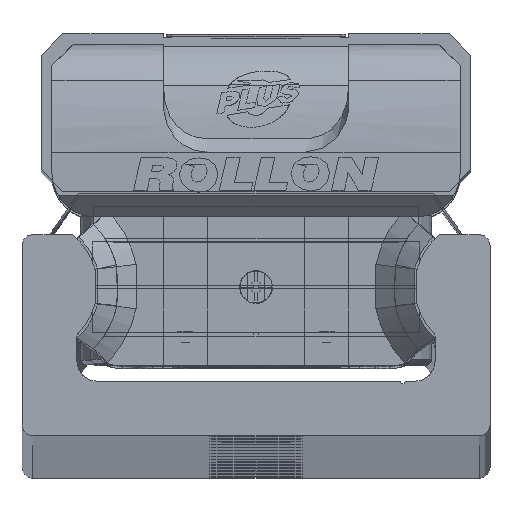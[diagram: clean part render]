
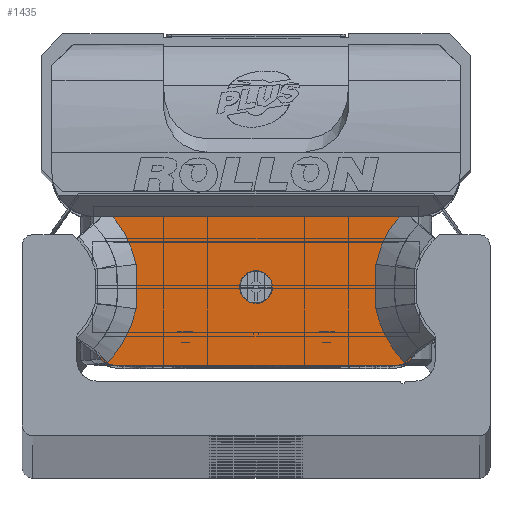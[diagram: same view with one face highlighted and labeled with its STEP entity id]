
A CAD part, top view. The second image highlights one B-rep face of the part: STEP entity #1435.
In plain terms, the highlighted planar face has unit normal (0, 0, 1) as drawn and (0, 0, -1) by its records, which use the part's own axes.
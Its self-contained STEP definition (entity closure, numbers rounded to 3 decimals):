
#1435 = ADVANCED_FACE( '', ( #3273, #3274 ), #3275, .F. );
#3273 = FACE_BOUND( '', #5703, .T. );
#3274 = FACE_OUTER_BOUND( '', #5704, .T. );
#3275 = PLANE( '', #5705 );
#5703 = EDGE_LOOP( '', ( #9621 ) );
#5704 = EDGE_LOOP( '', ( #9622, #9623, #9624, #9625, #9626, #9627, #9628, #9629, #9630, #9631, #9632, #9633 ) );
#5705 = AXIS2_PLACEMENT_3D( '', #9634, #9635, #9636 );
#9621 = ORIENTED_EDGE( '', *, *, #14032, .T. );
#9622 = ORIENTED_EDGE( '', *, *, #14141, .T. );
#9623 = ORIENTED_EDGE( '', *, *, #14436, .F. );
#9624 = ORIENTED_EDGE( '', *, *, #14437, .T. );
#9625 = ORIENTED_EDGE( '', *, *, #14438, .F. );
#9626 = ORIENTED_EDGE( '', *, *, #14439, .T. );
#9627 = ORIENTED_EDGE( '', *, *, #14440, .T. );
#9628 = ORIENTED_EDGE( '', *, *, #13671, .T. );
#9629 = ORIENTED_EDGE( '', *, *, #14022, .T. );
#9630 = ORIENTED_EDGE( '', *, *, #14325, .T. );
#9631 = ORIENTED_EDGE( '', *, *, #14441, .T. );
#9632 = ORIENTED_EDGE( '', *, *, #14442, .T. );
#9633 = ORIENTED_EDGE( '', *, *, #13666, .T. );
#9634 = CARTESIAN_POINT( '', ( 14.9, 7.35, -13.25 ) );
#9635 = DIRECTION( '', ( 0., 0., 1. ) );
#9636 = DIRECTION( '', ( 1., 0., 0. ) );
#13666 = EDGE_CURVE( '', #16398, #16396, #16399, .T. );
#13671 = EDGE_CURVE( '', #16407, #16405, #16408, .T. );
#14022 = EDGE_CURVE( '', #16405, #16962, #16964, .T. );
#14032 = EDGE_CURVE( '', #16977, #16977, #16978, .T. );
#14141 = EDGE_CURVE( '', #16396, #15873, #17150, .T. );
#14325 = EDGE_CURVE( '', #16962, #17436, #17438, .T. );
#14436 = EDGE_CURVE( '', #17600, #15873, #17601, .T. );
#14437 = EDGE_CURVE( '', #17600, #17602, #17603, .T. );
#14438 = EDGE_CURVE( '', #15423, #17602, #17604, .T. );
#14439 = EDGE_CURVE( '', #15423, #17605, #17606, .T. );
#14440 = EDGE_CURVE( '', #17605, #16407, #17607, .T. );
#14441 = EDGE_CURVE( '', #17436, #17608, #17609, .T. );
#14442 = EDGE_CURVE( '', #17608, #16398, #17610, .T. );
#15423 = VERTEX_POINT( '', #18872 );
#15873 = VERTEX_POINT( '', #19455 );
#16396 = VERTEX_POINT( '', #20186 );
#16398 = VERTEX_POINT( '', #20189 );
#16399 = B_SPLINE_CURVE_WITH_KNOTS( '', 2, ( #20190, #20191, #20192, #20193, #20194 ), .UNSPECIFIED., .F., .F., ( 3, 2, 3 ), ( 0., 0.5, 1. ), .UNSPECIFIED. );
#16405 = VERTEX_POINT( '', #20204 );
#16407 = VERTEX_POINT( '', #20207 );
#16408 = B_SPLINE_CURVE_WITH_KNOTS( '', 2, ( #20208, #20209, #20210 ), .UNSPECIFIED., .F., .F., ( 3, 3 ), ( 0., 1. ), .UNSPECIFIED. );
#16962 = VERTEX_POINT( '', #20931 );
#16964 = B_SPLINE_CURVE_WITH_KNOTS( '', 2, ( #20936, #20937, #20938, #20939, #20940 ), .UNSPECIFIED., .F., .F., ( 3, 2, 3 ), ( 0., 0.5, 0.868 ), .UNSPECIFIED. );
#16977 = VERTEX_POINT( '', #20960 );
#16978 = CIRCLE( '', #20961, 1.5 );
#17150 = B_SPLINE_CURVE_WITH_KNOTS( '', 1, ( #21234, #21235 ), .UNSPECIFIED., .F., .F., ( 2, 2 ), ( 0., 1. ), .UNSPECIFIED. );
#17436 = VERTEX_POINT( '', #21625 );
#17438 = LINE( '', #21630, #21631 );
#17600 = VERTEX_POINT( '', #21846 );
#17601 = CIRCLE( '', #21847, 2.5 );
#17602 = VERTEX_POINT( '', #21848 );
#17603 = LINE( '', #21849, #21850 );
#17604 = CIRCLE( '', #21851, 2.5 );
#17605 = VERTEX_POINT( '', #21852 );
#17606 = B_SPLINE_CURVE_WITH_KNOTS( '', 1, ( #21853, #21854 ), .UNSPECIFIED., .F., .F., ( 2, 2 ), ( 0., 1. ), .UNSPECIFIED. );
#17607 = B_SPLINE_CURVE_WITH_KNOTS( '', 2, ( #21855, #21856, #21857, #21858, #21859 ), .UNSPECIFIED., .F., .F., ( 3, 2, 3 ), ( 0., 0.5, 1. ), .UNSPECIFIED. );
#17608 = VERTEX_POINT( '', #21860 );
#17609 = B_SPLINE_CURVE_WITH_KNOTS( '', 2, ( #21861, #21862, #21863, #21864, #21865 ), .UNSPECIFIED., .F., .F., ( 3, 2, 3 ), ( 0.133, 0.5, 1. ), .UNSPECIFIED. );
#17610 = B_SPLINE_CURVE_WITH_KNOTS( '', 2, ( #21866, #21867, #21868 ), .UNSPECIFIED., .F., .F., ( 3, 3 ), ( 0., 1. ), .UNSPECIFIED. );
#18872 = CARTESIAN_POINT( '', ( -14.904, -5.718, -13.25 ) );
#19455 = CARTESIAN_POINT( '', ( 14.906, -5.717, -13.25 ) );
#20186 = CARTESIAN_POINT( '', ( 13.628, -6.965, -13.25 ) );
#20189 = CARTESIAN_POINT( '', ( 11.012, -2.045, -13.25 ) );
#20190 = CARTESIAN_POINT( '', ( 11.012, -2.045, -13.25 ) );
#20191 = CARTESIAN_POINT( '', ( 11.301, -3.43, -13.25 ) );
#20192 = CARTESIAN_POINT( '', ( 11.972, -4.69, -13.25 ) );
#20193 = CARTESIAN_POINT( '', ( 12.642, -5.95, -13.25 ) );
#20194 = CARTESIAN_POINT( '', ( 13.628, -6.965, -13.25 ) );
#20204 = CARTESIAN_POINT( '', ( -11.012, 2.045, -13.25 ) );
#20207 = CARTESIAN_POINT( '', ( -11.012, -2.045, -13.25 ) );
#20208 = CARTESIAN_POINT( '', ( -11.012, -2.045, -13.25 ) );
#20209 = CARTESIAN_POINT( '', ( -10.888, 0., -13.25 ) );
#20210 = CARTESIAN_POINT( '', ( -11.012, 2.045, -13.25 ) );
#20931 = CARTESIAN_POINT( '', ( -13.119, 6.4, -13.25 ) );
#20936 = CARTESIAN_POINT( '', ( -11.012, 2.045, -13.25 ) );
#20937 = CARTESIAN_POINT( '', ( -11.302, 3.432, -13.25 ) );
#20938 = CARTESIAN_POINT( '', ( -11.967, 4.685, -13.25 ) );
#20939 = CARTESIAN_POINT( '', ( -12.456, 5.606, -13.25 ) );
#20940 = CARTESIAN_POINT( '', ( -13.119, 6.4, -13.25 ) );
#20960 = CARTESIAN_POINT( '', ( 1.5, -0.05, -13.25 ) );
#20961 = AXIS2_PLACEMENT_3D( '', #24976, #24977, #24978 );
#21234 = CARTESIAN_POINT( '', ( 13.628, -6.965, -13.25 ) );
#21235 = CARTESIAN_POINT( '', ( 14.9, -5.728, -13.25 ) );
#21625 = CARTESIAN_POINT( '', ( 13.12, 6.4, -13.25 ) );
#21630 = CARTESIAN_POINT( '', ( 14.9, 6.4, -13.25 ) );
#21631 = VECTOR( '', #25375, 1000. );
#21846 = CARTESIAN_POINT( '', ( 12.58, -7.3, -13.25 ) );
#21847 = AXIS2_PLACEMENT_3D( '', #25520, #25521, #25522 );
#21848 = CARTESIAN_POINT( '', ( -12.58, -7.3, -13.25 ) );
#21849 = CARTESIAN_POINT( '', ( 12.58, -7.3, -13.25 ) );
#21850 = VECTOR( '', #25523, 1000. );
#21851 = AXIS2_PLACEMENT_3D( '', #25524, #25525, #25526 );
#21852 = CARTESIAN_POINT( '', ( -13.628, -6.965, -13.25 ) );
#21853 = CARTESIAN_POINT( '', ( -14.915, -5.713, -13.25 ) );
#21854 = CARTESIAN_POINT( '', ( -13.628, -6.965, -13.25 ) );
#21855 = CARTESIAN_POINT( '', ( -13.628, -6.965, -13.25 ) );
#21856 = CARTESIAN_POINT( '', ( -12.638, -5.946, -13.25 ) );
#21857 = CARTESIAN_POINT( '', ( -11.97, -4.691, -13.25 ) );
#21858 = CARTESIAN_POINT( '', ( -11.303, -3.437, -13.25 ) );
#21859 = CARTESIAN_POINT( '', ( -11.012, -2.045, -13.25 ) );
#21860 = CARTESIAN_POINT( '', ( 11.012, 2.045, -13.25 ) );
#21861 = CARTESIAN_POINT( '', ( 13.119, 6.4, -13.25 ) );
#21862 = CARTESIAN_POINT( '', ( 12.459, 5.608, -13.25 ) );
#21863 = CARTESIAN_POINT( '', ( 11.968, 4.684, -13.25 ) );
#21864 = CARTESIAN_POINT( '', ( 11.301, 3.427, -13.25 ) );
#21865 = CARTESIAN_POINT( '', ( 11.012, 2.045, -13.25 ) );
#21866 = CARTESIAN_POINT( '', ( 11.012, 2.045, -13.25 ) );
#21867 = CARTESIAN_POINT( '', ( 10.888, 0., -13.25 ) );
#21868 = CARTESIAN_POINT( '', ( 11.012, -2.045, -13.25 ) );
#24976 = CARTESIAN_POINT( '', ( 0., -0.05, -13.25 ) );
#24977 = DIRECTION( '', ( 0., 0., 1. ) );
#24978 = DIRECTION( '', ( 1., 0., 0. ) );
#25375 = DIRECTION( '', ( 1., 0., 0. ) );
#25520 = CARTESIAN_POINT( '', ( 12.58, -4.8, -13.25 ) );
#25521 = DIRECTION( '', ( 0., 0., 1. ) );
#25522 = DIRECTION( '', ( 1., 0., 0. ) );
#25523 = DIRECTION( '', ( -1., 0., 0. ) );
#25524 = CARTESIAN_POINT( '', ( -12.58, -4.8, -13.25 ) );
#25525 = DIRECTION( '', ( 0., 0., 1. ) );
#25526 = DIRECTION( '', ( 1., 0., 0. ) );
